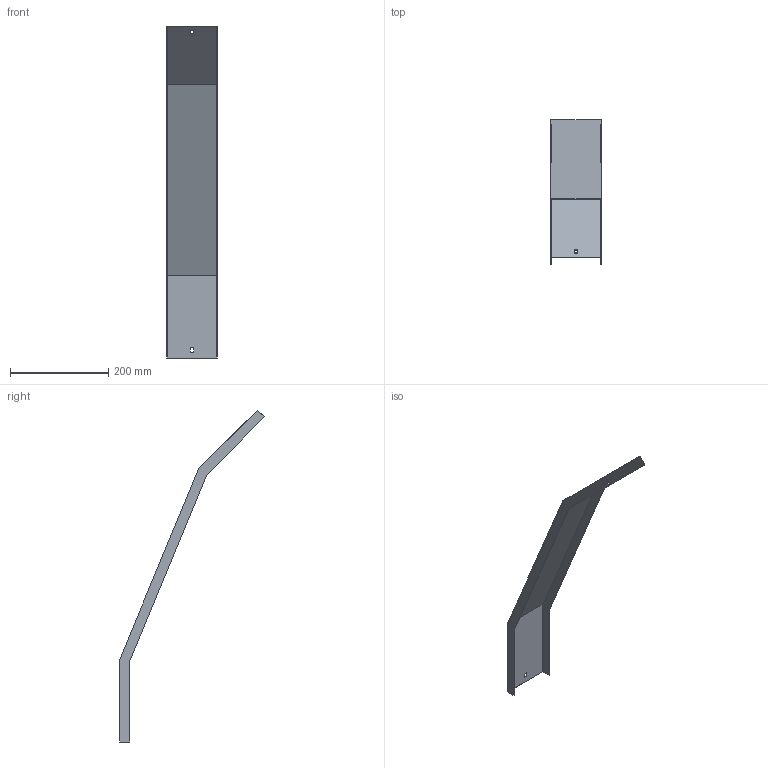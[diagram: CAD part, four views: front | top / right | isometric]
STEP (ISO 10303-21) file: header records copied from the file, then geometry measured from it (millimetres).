
FILE_DESCRIPTION (( 'STEP AP214' ), '1' );
FILE_NAME ('34N5C100.step', '2025-02-21T10:32:15', ( '' ), ( '' ), 'SwSTEP 2.0', 'SolidWorks 2023', '' );
FILE_SCHEMA (( 'AUTOMOTIVE_DESIGN' ));
Length unit declared in the file: millimetre
Products named in the file (1): 34N5C100
Bounding box: 103 x 294.72 x 677.38 mm (x, y, z)
Volume: 158629.3 mm3; surface area: 214249.6 mm2
Topology: 1 solids, 1 shells, 26 faces, 72 edges, 48 vertices
Faces by surface type: plane 26
Entity records: 847 total; most frequent: CARTESIAN_POINT 147, ORIENTED_EDGE 144, DIRECTION 126, VECTOR 72, LINE 72, EDGE_CURVE 72, VERTEX_POINT 48, EDGE_LOOP 30
